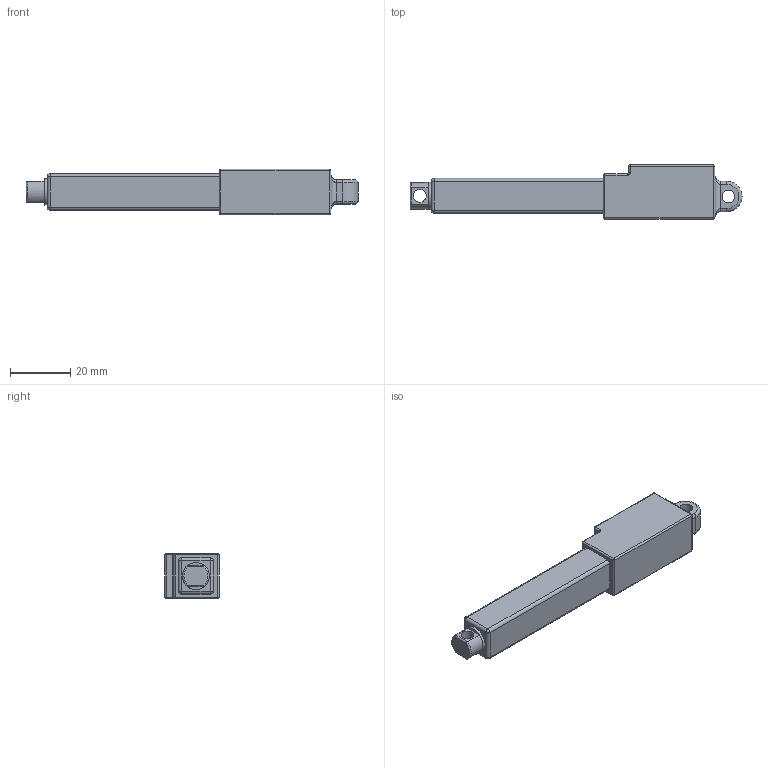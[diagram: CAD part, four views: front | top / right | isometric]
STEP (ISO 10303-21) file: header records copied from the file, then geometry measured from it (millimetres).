
FILE_DESCRIPTION(/* description */ ('Alibre Inc.'),/* implementation_level */ '2;1');
FILE_NAME(/* name */ 'export0',/* time_stamp */ '2017-01-19T10:44:41-07:00',/* author */ (''),/* organization */ (''),/* preprocessor_version */ 'ST-DEVELOPER v14',/* originating_system */ 'Alibre',/* authorisation */ '');
FILE_SCHEMA (('CONFIG_CONTROL_DESIGN'));
Length unit declared in the file: centimetre
Products named in the file (1): ID_1
Bounding box: 110 x 18 x 15 mm (x, y, z)
Volume: 18280.4 mm3; surface area: 5981.5 mm2
Topology: 1 solids, 1 shells, 87 faces, 196 edges, 96 vertices
Faces by surface type: cylinder 42, plane 21, sphere 14, torus 6, bspline 4
Full cylindrical faces by diameter (mm): 4.25 x2, 8.9 x1
Entity records: 2737 total; most frequent: CARTESIAN_POINT 836, DIRECTION 394, ORIENTED_EDGE 350, EDGE_CURVE 175, AXIS2_PLACEMENT_3D 169, EDGE_LOOP 97, FACE_BOUND 97, VERTEX_POINT 96
